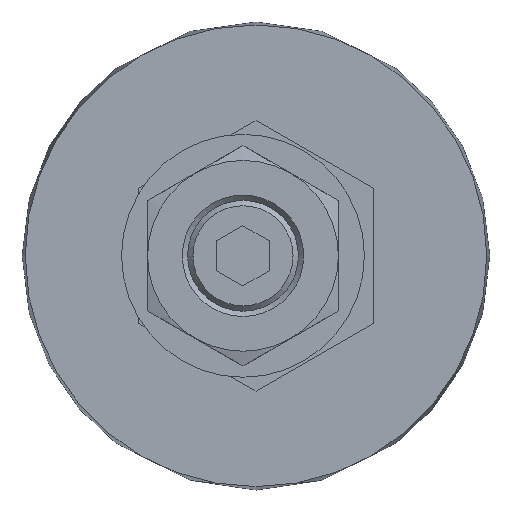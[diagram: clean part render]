
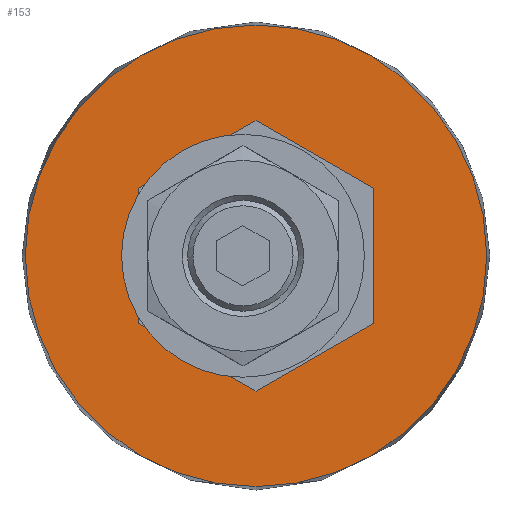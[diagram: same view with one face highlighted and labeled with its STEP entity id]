
A CAD part, front view. The second image highlights one B-rep face of the part: STEP entity #153.
In plain terms, the highlighted planar face has unit normal (0, -1, 0).
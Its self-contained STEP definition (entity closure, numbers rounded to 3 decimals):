
#153 = ADVANCED_FACE( '', ( #230, #231 ), #232, .F. );
#230 = FACE_BOUND( '', #337, .T. );
#231 = FACE_OUTER_BOUND( '', #338, .T. );
#232 = PLANE( '', #339 );
#337 = EDGE_LOOP( '', ( #577, #578, #579, #580, #581, #582 ) );
#338 = EDGE_LOOP( '', ( #583 ) );
#339 = AXIS2_PLACEMENT_3D( '', #584, #585, #586 );
#577 = ORIENTED_EDGE( '', *, *, #811, .T. );
#578 = ORIENTED_EDGE( '', *, *, #812, .T. );
#579 = ORIENTED_EDGE( '', *, *, #813, .T. );
#580 = ORIENTED_EDGE( '', *, *, #814, .T. );
#581 = ORIENTED_EDGE( '', *, *, #815, .T. );
#582 = ORIENTED_EDGE( '', *, *, #816, .T. );
#583 = ORIENTED_EDGE( '', *, *, #817, .T. );
#584 = CARTESIAN_POINT( '', ( 26.608, 5., 0. ) );
#585 = DIRECTION( '', ( 0., 1., 0. ) );
#586 = DIRECTION( '', ( 0., 0., 1. ) );
#811 = EDGE_CURVE( '', #949, #950, #951, .T. );
#812 = EDGE_CURVE( '', #950, #952, #953, .T. );
#813 = EDGE_CURVE( '', #952, #954, #955, .T. );
#814 = EDGE_CURVE( '', #954, #956, #957, .T. );
#815 = EDGE_CURVE( '', #956, #958, #959, .T. );
#816 = EDGE_CURVE( '', #958, #949, #960, .T. );
#817 = EDGE_CURVE( '', #961, #961, #962, .T. );
#949 = VERTEX_POINT( '', #1199 );
#950 = VERTEX_POINT( '', #1200 );
#951 = LINE( '', #1201, #1202 );
#952 = VERTEX_POINT( '', #1203 );
#953 = LINE( '', #1204, #1205 );
#954 = VERTEX_POINT( '', #1206 );
#955 = LINE( '', #1207, #1208 );
#956 = VERTEX_POINT( '', #1209 );
#957 = LINE( '', #1210, #1211 );
#958 = VERTEX_POINT( '', #1212 );
#959 = LINE( '', #1213, #1214 );
#960 = LINE( '', #1215, #1216 );
#961 = VERTEX_POINT( '', #1217 );
#962 = CIRCLE( '', #1218, 26.608 );
#1199 = CARTESIAN_POINT( '', ( 13.5, 5., 7.794 ) );
#1200 = CARTESIAN_POINT( '', ( 13.5, 5., -7.794 ) );
#1201 = CARTESIAN_POINT( '', ( 13.5, 5., 7.794 ) );
#1202 = VECTOR( '', #1367, 1000. );
#1203 = CARTESIAN_POINT( '', ( 0., 5., -15.588 ) );
#1204 = CARTESIAN_POINT( '', ( 13.5, 5., -7.794 ) );
#1205 = VECTOR( '', #1368, 1000. );
#1206 = CARTESIAN_POINT( '', ( -13.5, 5., -7.794 ) );
#1207 = CARTESIAN_POINT( '', ( 0., 5., -15.588 ) );
#1208 = VECTOR( '', #1369, 1000. );
#1209 = CARTESIAN_POINT( '', ( -13.5, 5., 7.794 ) );
#1210 = CARTESIAN_POINT( '', ( -13.5, 5., -7.794 ) );
#1211 = VECTOR( '', #1370, 1000. );
#1212 = CARTESIAN_POINT( '', ( 0., 5., 15.588 ) );
#1213 = CARTESIAN_POINT( '', ( -13.5, 5., 7.794 ) );
#1214 = VECTOR( '', #1371, 1000. );
#1215 = CARTESIAN_POINT( '', ( 0., 5., 15.588 ) );
#1216 = VECTOR( '', #1372, 1000. );
#1217 = CARTESIAN_POINT( '', ( 0., 5., -26.608 ) );
#1218 = AXIS2_PLACEMENT_3D( '', #1373, #1374, #1375 );
#1367 = DIRECTION( '', ( 0., 0., -1. ) );
#1368 = DIRECTION( '', ( -0.866, 0., -0.5 ) );
#1369 = DIRECTION( '', ( -0.866, 0., 0.5 ) );
#1370 = DIRECTION( '', ( 0., 0., 1. ) );
#1371 = DIRECTION( '', ( 0.866, 0., 0.5 ) );
#1372 = DIRECTION( '', ( 0.866, 0., -0.5 ) );
#1373 = CARTESIAN_POINT( '', ( 0., 5., 0. ) );
#1374 = DIRECTION( '', ( 0., -1., 0. ) );
#1375 = DIRECTION( '', ( 0., 0., -1. ) );
